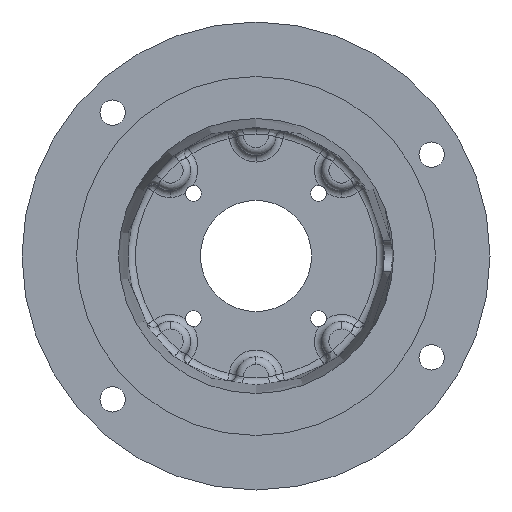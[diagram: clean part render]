
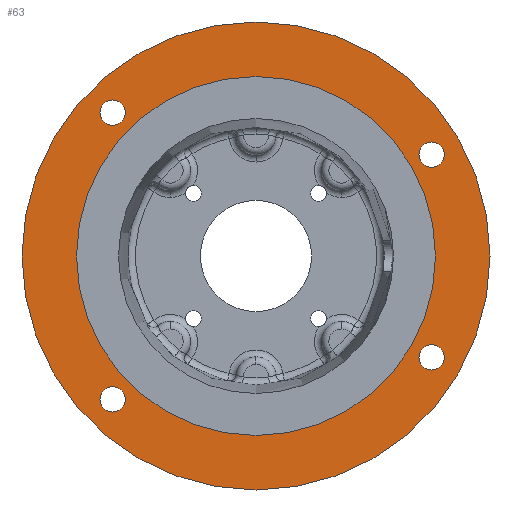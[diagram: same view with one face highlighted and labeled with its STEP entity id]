
A CAD part, front view. The second image highlights one B-rep face of the part: STEP entity #63.
In plain terms, the highlighted planar face has unit normal (0, -1, 0).
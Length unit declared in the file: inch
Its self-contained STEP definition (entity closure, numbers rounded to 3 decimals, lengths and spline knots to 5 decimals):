
#24 = FACE_BOUND ( 'NONE', #2078, .T. ) ;
#63 = ADVANCED_FACE ( 'NONE', ( #2905, #6358, #1151, #24, #2317, #5707 ), #2856, .F. ) ;
#168 = DIRECTION ( 'NONE',  ( 0., 0., 1. ) ) ;
#193 = VERTEX_POINT ( 'NONE', #2710 ) ;
#203 = CARTESIAN_POINT ( 'NONE',  ( 2.81458, 0., -1.625 ) ) ;
#229 = VERTEX_POINT ( 'NONE', #4576 ) ;
#393 = AXIS2_PLACEMENT_3D ( 'NONE', #4283, #6575, #6008 ) ;
#428 = DIRECTION ( 'NONE',  ( 0., 0., 1. ) ) ;
#458 = ORIENTED_EDGE ( 'NONE', *, *, #7128, .T. ) ;
#499 = DIRECTION ( 'NONE',  ( 0., 0., 1. ) ) ;
#617 = CIRCLE ( 'NONE', #4798, 0.20312 ) ;
#630 = ORIENTED_EDGE ( 'NONE', *, *, #4051, .T. ) ;
#649 = AXIS2_PLACEMENT_3D ( 'NONE', #1711, #4473, #3907 ) ;
#699 = CARTESIAN_POINT ( 'NONE',  ( 2.81458, 0., 1.625 ) ) ;
#786 = AXIS2_PLACEMENT_3D ( 'NONE', #5551, #3791, #428 ) ;
#827 = CARTESIAN_POINT ( 'NONE',  ( -2.2981, 0., 2.50122 ) ) ;
#917 = CIRCLE ( 'NONE', #3426, 0.20312 ) ;
#1067 = ORIENTED_EDGE ( 'NONE', *, *, #5604, .T. ) ;
#1102 = VERTEX_POINT ( 'NONE', #2192 ) ;
#1124 = CIRCLE ( 'NONE', #6036, 3.75 ) ;
#1151 = FACE_BOUND ( 'NONE', #4657, .T. ) ;
#1331 = EDGE_CURVE ( 'NONE', #6856, #6193, #2901, .T. ) ;
#1559 = DIRECTION ( 'NONE',  ( 0., 0., 1. ) ) ;
#1711 = CARTESIAN_POINT ( 'NONE',  ( -2.2981, 0., 2.2981 ) ) ;
#1741 = DIRECTION ( 'NONE',  ( 0., -1., 0. ) ) ;
#1767 = EDGE_LOOP ( 'NONE', ( #458, #6780 ) ) ;
#2008 = AXIS2_PLACEMENT_3D ( 'NONE', #3396, #2792, #1559 ) ;
#2017 = DIRECTION ( 'NONE',  ( 0., 0., 1. ) ) ;
#2071 = DIRECTION ( 'NONE',  ( 0., 1., 0. ) ) ;
#2078 = EDGE_LOOP ( 'NONE', ( #1067, #630 ) ) ;
#2105 = ORIENTED_EDGE ( 'NONE', *, *, #5031, .T. ) ;
#2137 = CARTESIAN_POINT ( 'NONE',  ( 2.81458, 0., -1.82812 ) ) ;
#2142 = CARTESIAN_POINT ( 'NONE',  ( -2.2981, 0., -2.2981 ) ) ;
#2192 = CARTESIAN_POINT ( 'NONE',  ( 2.81458, 0., 1.82812 ) ) ;
#2220 = AXIS2_PLACEMENT_3D ( 'NONE', #5184, #4548, #3984 ) ;
#2229 = CIRCLE ( 'NONE', #4136, 0.20312 ) ;
#2302 = EDGE_LOOP ( 'NONE', ( #5977, #6418 ) ) ;
#2317 = FACE_BOUND ( 'NONE', #1767, .T. ) ;
#2339 = CIRCLE ( 'NONE', #3288, 0.20312 ) ;
#2503 = VERTEX_POINT ( 'NONE', #4454 ) ;
#2710 = CARTESIAN_POINT ( 'NONE',  ( -2.2981, 0., 2.09497 ) ) ;
#2761 = DIRECTION ( 'NONE',  ( 0., -1., 0. ) ) ;
#2762 = AXIS2_PLACEMENT_3D ( 'NONE', #6107, #2761, #3327 ) ;
#2792 = DIRECTION ( 'NONE',  ( 0., 1., 0. ) ) ;
#2817 = CARTESIAN_POINT ( 'NONE',  ( 0., 0., -3.75 ) ) ;
#2856 = PLANE ( 'NONE',  #3267 ) ;
#2862 = VERTEX_POINT ( 'NONE', #2137 ) ;
#2888 = EDGE_CURVE ( 'NONE', #6193, #6856, #6480, .T. ) ;
#2901 = CIRCLE ( 'NONE', #393, 2.876 ) ;
#2905 = FACE_BOUND ( 'NONE', #4189, .T. ) ;
#2912 = CARTESIAN_POINT ( 'NONE',  ( 0., 0., -2.876 ) ) ;
#2966 = DIRECTION ( 'NONE',  ( 0., 0., -1. ) ) ;
#2981 = DIRECTION ( 'NONE',  ( 0., 1., 0. ) ) ;
#3196 = CIRCLE ( 'NONE', #2008, 0.20312 ) ;
#3239 = ORIENTED_EDGE ( 'NONE', *, *, #2888, .F. ) ;
#3267 = AXIS2_PLACEMENT_3D ( 'NONE', #3343, #5665, #5134 ) ;
#3288 = AXIS2_PLACEMENT_3D ( 'NONE', #3352, #7414, #168 ) ;
#3320 = EDGE_CURVE ( 'NONE', #2503, #3532, #617, .T. ) ;
#3327 = DIRECTION ( 'NONE',  ( 0., 0., -1. ) ) ;
#3343 = CARTESIAN_POINT ( 'NONE',  ( -2.21362, 0., 0. ) ) ;
#3352 = CARTESIAN_POINT ( 'NONE',  ( 2.81458, 0., -1.625 ) ) ;
#3376 = VERTEX_POINT ( 'NONE', #6755 ) ;
#3396 = CARTESIAN_POINT ( 'NONE',  ( 2.81458, 0., 1.625 ) ) ;
#3426 = AXIS2_PLACEMENT_3D ( 'NONE', #5626, #6240, #499 ) ;
#3532 = VERTEX_POINT ( 'NONE', #4375 ) ;
#3544 = CARTESIAN_POINT ( 'NONE',  ( 0., 0., 3.75 ) ) ;
#3791 = DIRECTION ( 'NONE',  ( 0., 1., 0. ) ) ;
#3794 = ORIENTED_EDGE ( 'NONE', *, *, #6614, .T. ) ;
#3907 = DIRECTION ( 'NONE',  ( 0., 0., 1. ) ) ;
#3984 = DIRECTION ( 'NONE',  ( 0., 0., -1. ) ) ;
#4051 = EDGE_CURVE ( 'NONE', #193, #7175, #6155, .T. ) ;
#4057 = ORIENTED_EDGE ( 'NONE', *, *, #4442, .T. ) ;
#4136 = AXIS2_PLACEMENT_3D ( 'NONE', #699, #2981, #2017 ) ;
#4189 = EDGE_LOOP ( 'NONE', ( #5680, #3239 ) ) ;
#4283 = CARTESIAN_POINT ( 'NONE',  ( 0., 0., 0. ) ) ;
#4373 = VERTEX_POINT ( 'NONE', #2817 ) ;
#4375 = CARTESIAN_POINT ( 'NONE',  ( -2.2981, 0., -2.09497 ) ) ;
#4442 = EDGE_CURVE ( 'NONE', #5230, #4373, #1124, .T. ) ;
#4454 = CARTESIAN_POINT ( 'NONE',  ( -2.2981, 0., -2.50122 ) ) ;
#4473 = DIRECTION ( 'NONE',  ( 0., 1., 0. ) ) ;
#4481 = EDGE_LOOP ( 'NONE', ( #2105, #4057 ) ) ;
#4548 = DIRECTION ( 'NONE',  ( 0., -1., 0. ) ) ;
#4576 = CARTESIAN_POINT ( 'NONE',  ( 2.81458, 0., -1.42187 ) ) ;
#4606 = CIRCLE ( 'NONE', #4846, 0.20312 ) ;
#4657 = EDGE_LOOP ( 'NONE', ( #3794, #6012 ) ) ;
#4798 = AXIS2_PLACEMENT_3D ( 'NONE', #2142, #2071, #4982 ) ;
#4846 = AXIS2_PLACEMENT_3D ( 'NONE', #203, #7068, #7033 ) ;
#4982 = DIRECTION ( 'NONE',  ( 0., 0., 1. ) ) ;
#5031 = EDGE_CURVE ( 'NONE', #4373, #5230, #5200, .T. ) ;
#5100 = EDGE_CURVE ( 'NONE', #229, #2862, #2339, .T. ) ;
#5134 = DIRECTION ( 'NONE',  ( 0., 0., 1. ) ) ;
#5184 = CARTESIAN_POINT ( 'NONE',  ( 0., 0., 0. ) ) ;
#5200 = CIRCLE ( 'NONE', #2220, 3.75 ) ;
#5230 = VERTEX_POINT ( 'NONE', #3544 ) ;
#5551 = CARTESIAN_POINT ( 'NONE',  ( -2.2981, 0., 2.2981 ) ) ;
#5604 = EDGE_CURVE ( 'NONE', #7175, #193, #6777, .T. ) ;
#5626 = CARTESIAN_POINT ( 'NONE',  ( -2.2981, 0., -2.2981 ) ) ;
#5665 = DIRECTION ( 'NONE',  ( 0., 1., 0. ) ) ;
#5680 = ORIENTED_EDGE ( 'NONE', *, *, #1331, .F. ) ;
#5707 = FACE_OUTER_BOUND ( 'NONE', #4481, .T. ) ;
#5773 = EDGE_CURVE ( 'NONE', #2862, #229, #4606, .T. ) ;
#5977 = ORIENTED_EDGE ( 'NONE', *, *, #5100, .T. ) ;
#6008 = DIRECTION ( 'NONE',  ( 0., 0., -1. ) ) ;
#6012 = ORIENTED_EDGE ( 'NONE', *, *, #3320, .T. ) ;
#6036 = AXIS2_PLACEMENT_3D ( 'NONE', #6455, #1741, #2966 ) ;
#6107 = CARTESIAN_POINT ( 'NONE',  ( 0., 0., 0. ) ) ;
#6146 = CARTESIAN_POINT ( 'NONE',  ( 0., 0., 2.876 ) ) ;
#6155 = CIRCLE ( 'NONE', #649, 0.20312 ) ;
#6193 = VERTEX_POINT ( 'NONE', #6146 ) ;
#6240 = DIRECTION ( 'NONE',  ( 0., 1., 0. ) ) ;
#6289 = EDGE_CURVE ( 'NONE', #3376, #1102, #2229, .T. ) ;
#6358 = FACE_BOUND ( 'NONE', #2302, .T. ) ;
#6418 = ORIENTED_EDGE ( 'NONE', *, *, #5773, .T. ) ;
#6455 = CARTESIAN_POINT ( 'NONE',  ( 0., 0., 0. ) ) ;
#6480 = CIRCLE ( 'NONE', #2762, 2.876 ) ;
#6575 = DIRECTION ( 'NONE',  ( 0., -1., 0. ) ) ;
#6614 = EDGE_CURVE ( 'NONE', #3532, #2503, #917, .T. ) ;
#6755 = CARTESIAN_POINT ( 'NONE',  ( 2.81458, 0., 1.42187 ) ) ;
#6777 = CIRCLE ( 'NONE', #786, 0.20312 ) ;
#6780 = ORIENTED_EDGE ( 'NONE', *, *, #6289, .T. ) ;
#6856 = VERTEX_POINT ( 'NONE', #2912 ) ;
#7033 = DIRECTION ( 'NONE',  ( 0., 0., 1. ) ) ;
#7068 = DIRECTION ( 'NONE',  ( 0., 1., 0. ) ) ;
#7128 = EDGE_CURVE ( 'NONE', #1102, #3376, #3196, .T. ) ;
#7175 = VERTEX_POINT ( 'NONE', #827 ) ;
#7414 = DIRECTION ( 'NONE',  ( 0., 1., 0. ) ) ;
